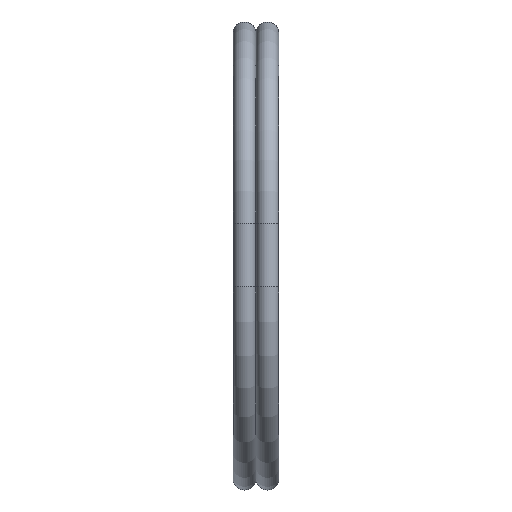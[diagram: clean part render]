
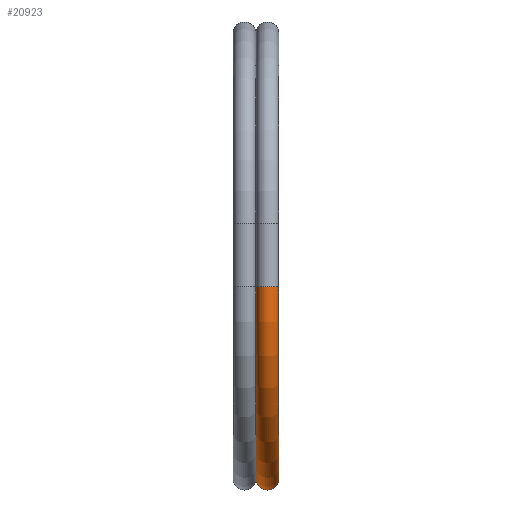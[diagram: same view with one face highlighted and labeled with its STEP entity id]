
A CAD part, left-side view. The second image highlights one B-rep face of the part: STEP entity #20923.
In plain terms, the highlighted toroidal (fillet/blend) face has major radius 15 mm and minor radius 0.9 mm.
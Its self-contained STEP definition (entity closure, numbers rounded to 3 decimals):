
#16=TOROIDAL_SURFACE('',#22213,15.,0.9);
#6038=FACE_OUTER_BOUND('',#7252,.T.);
#7252=EDGE_LOOP('',(#14882,#14883,#14884,#14885));
#8652=CIRCLE('',#22191,0.9);
#8663=CIRCLE('',#22214,15.);
#8664=CIRCLE('',#22215,0.9);
#9267=VERTEX_POINT('',#28424);
#9530=VERTEX_POINT('',#30531);
#11604=EDGE_CURVE('',#9267,#9267,#8652,.T.);
#11616=EDGE_CURVE('',#9530,#9267,#8663,.T.);
#11617=EDGE_CURVE('',#9530,#9530,#8664,.T.);
#14882=ORIENTED_EDGE('',*,*,#11604,.T.);
#14883=ORIENTED_EDGE('',*,*,#11616,.F.);
#14884=ORIENTED_EDGE('',*,*,#11617,.F.);
#14885=ORIENTED_EDGE('',*,*,#11616,.T.);
#20923=ADVANCED_FACE('',(#6038),#16,.F.);
#22191=AXIS2_PLACEMENT_3D('',#30499,#24128,#24129);
#22213=AXIS2_PLACEMENT_3D('',#30530,#24173,#24174);
#22214=AXIS2_PLACEMENT_3D('',#30532,#24175,#24176);
#22215=AXIS2_PLACEMENT_3D('',#30533,#24177,#24178);
#24128=DIRECTION('center_axis',(1.,0.,0.));
#24129=DIRECTION('ref_axis',(0.,-1.,0.));
#24173=DIRECTION('center_axis',(0.,-1.,0.));
#24174=DIRECTION('ref_axis',(0.,0.,-1.));
#24175=DIRECTION('center_axis',(0.,-1.,0.));
#24176=DIRECTION('ref_axis',(0.,0.,
-1.));
#24177=DIRECTION('center_axis',(0.,0.,
-1.));
#24178=DIRECTION('ref_axis',(0.,-1.,0.));
#28424=CARTESIAN_POINT('',(-89.573,0.,-14.1));
#30499=CARTESIAN_POINT('Origin',(-89.573,-0.9,-14.1));
#30530=CARTESIAN_POINT('Origin',(-89.573,-0.9,0.9));
#30531=CARTESIAN_POINT('',(-104.573,0.,0.9));
#30532=CARTESIAN_POINT('Origin',(-89.573,0.,
0.9));
#30533=CARTESIAN_POINT('Origin',(-104.573,-0.9,0.9));
